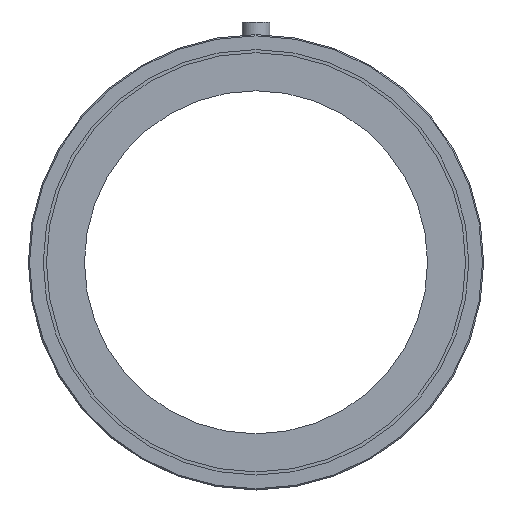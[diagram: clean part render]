
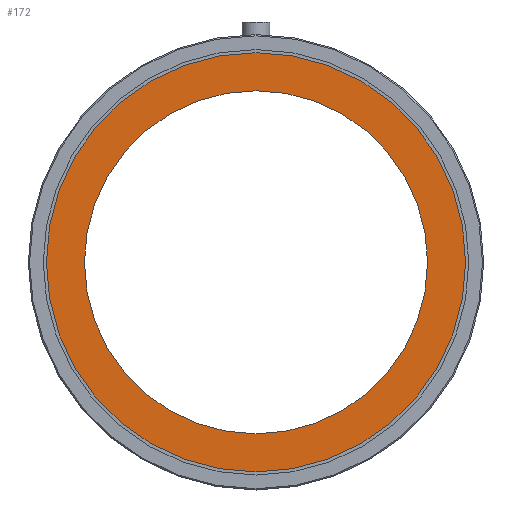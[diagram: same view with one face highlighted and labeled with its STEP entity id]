
A CAD part, front view. The second image highlights one B-rep face of the part: STEP entity #172.
In plain terms, the highlighted planar face has unit normal (0, -1, 0).
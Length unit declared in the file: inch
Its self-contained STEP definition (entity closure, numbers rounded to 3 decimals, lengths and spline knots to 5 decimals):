
#4 = DIRECTION ( 'NONE',  ( 0., -1., 0. ) ) ;
#35 = CARTESIAN_POINT ( 'NONE',  ( 0., 0.03, 0. ) ) ;
#37 = DIRECTION ( 'NONE',  ( 0., 0., -1. ) ) ;
#113 = CIRCLE ( 'NONE', #1659, 0.84 ) ;
#127 = VERTEX_POINT ( 'NONE', #979 ) ;
#130 = VERTEX_POINT ( 'NONE', #961 ) ;
#131 = VERTEX_POINT ( 'NONE', #982 ) ;
#172 = ADVANCED_FACE ( 'NONE', ( #268, #246 ), #1086, .F. ) ;
#246 = FACE_OUTER_BOUND ( 'NONE', #749, .T. ) ;
#268 = FACE_BOUND ( 'NONE', #724, .T. ) ;
#291 = CIRCLE ( 'NONE', #1633, 0.84 ) ;
#318 = CIRCLE ( 'NONE', #1620, 0.6875 ) ;
#333 = CIRCLE ( 'NONE', #1605, 0.6875 ) ;
#445 = VERTEX_POINT ( 'NONE', #1236 ) ;
#449 = EDGE_CURVE ( 'NONE', #127, #445, #318, .T. ) ;
#454 = EDGE_CURVE ( 'NONE', #130, #131, #291, .T. ) ;
#474 = EDGE_CURVE ( 'NONE', #445, #127, #333, .T. ) ;
#612 = ORIENTED_EDGE ( 'NONE', *, *, #449, .T. ) ;
#620 = ORIENTED_EDGE ( 'NONE', *, *, #474, .T. ) ;
#625 = ORIENTED_EDGE ( 'NONE', *, *, #1557, .T. ) ;
#640 = ORIENTED_EDGE ( 'NONE', *, *, #454, .T. ) ;
#724 = EDGE_LOOP ( 'NONE', ( #612, #620 ) ) ;
#749 = EDGE_LOOP ( 'NONE', ( #625, #640 ) ) ;
#961 = CARTESIAN_POINT ( 'NONE',  ( 0., 0.03, -0.84 ) ) ;
#979 = CARTESIAN_POINT ( 'NONE',  ( 0., 0.03, -0.6875 ) ) ;
#982 = CARTESIAN_POINT ( 'NONE',  ( 0., 0.03, 0.84 ) ) ;
#1071 = DIRECTION ( 'NONE',  ( 0., 1., 0. ) ) ;
#1086 = PLANE ( 'NONE',  #1621 ) ;
#1098 = CARTESIAN_POINT ( 'NONE',  ( 0., 0.03, 0. ) ) ;
#1099 = DIRECTION ( 'NONE',  ( 0., 0., 1. ) ) ;
#1226 = CARTESIAN_POINT ( 'NONE',  ( 0., 0.03, 0. ) ) ;
#1233 = DIRECTION ( 'NONE',  ( 0., -1., 0. ) ) ;
#1235 = CARTESIAN_POINT ( 'NONE',  ( 0., 0.03, 0. ) ) ;
#1236 = CARTESIAN_POINT ( 'NONE',  ( 0., 0.03, 0.6875 ) ) ;
#1241 = DIRECTION ( 'NONE',  ( 0., 1., 0. ) ) ;
#1253 = DIRECTION ( 'NONE',  ( 0., 0., 1. ) ) ;
#1261 = DIRECTION ( 'NONE',  ( 0., 0., -1. ) ) ;
#1323 = DIRECTION ( 'NONE',  ( 0., 1., 0. ) ) ;
#1334 = CARTESIAN_POINT ( 'NONE',  ( 0., 0.03, 0. ) ) ;
#1343 = DIRECTION ( 'NONE',  ( 0., 0., 1. ) ) ;
#1557 = EDGE_CURVE ( 'NONE', #131, #130, #113, .T. ) ;
#1605 = AXIS2_PLACEMENT_3D ( 'NONE', #1334, #1323, #1343 ) ;
#1620 = AXIS2_PLACEMENT_3D ( 'NONE', #1235, #1241, #1253 ) ;
#1621 = AXIS2_PLACEMENT_3D ( 'NONE', #1098, #1071, #1099 ) ;
#1633 = AXIS2_PLACEMENT_3D ( 'NONE', #1226, #1233, #1261 ) ;
#1659 = AXIS2_PLACEMENT_3D ( 'NONE', #35, #4, #37 ) ;
